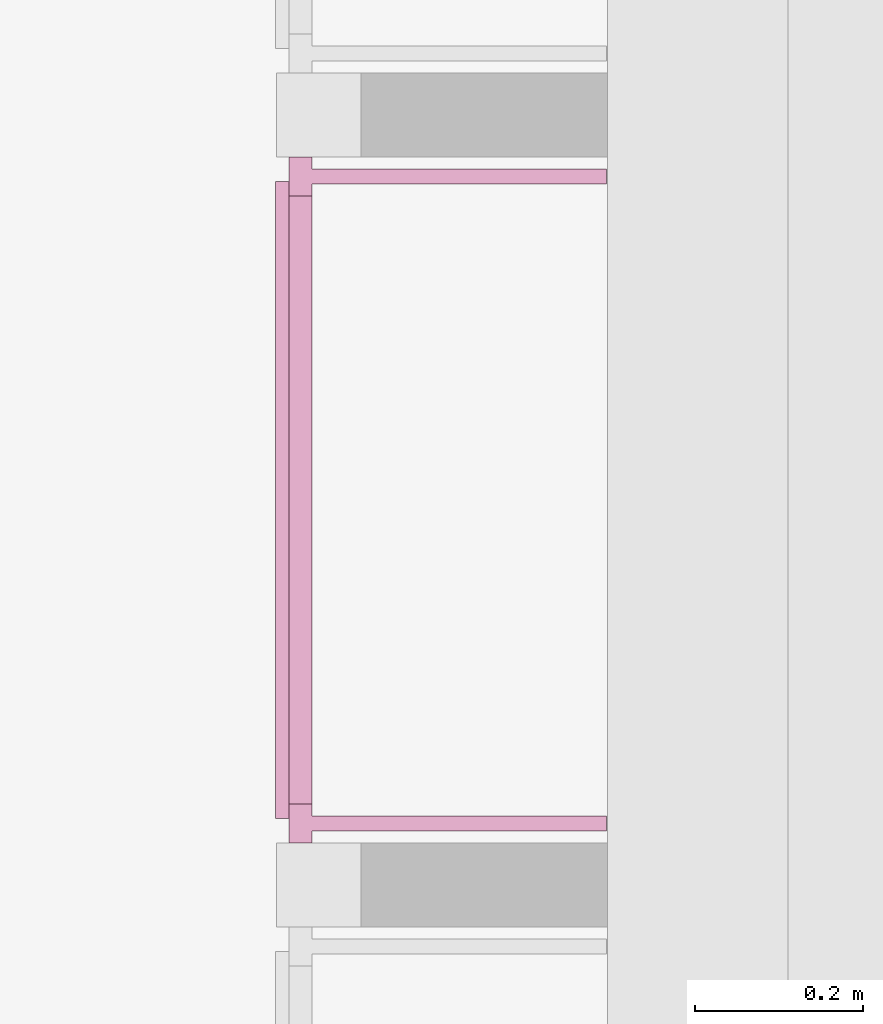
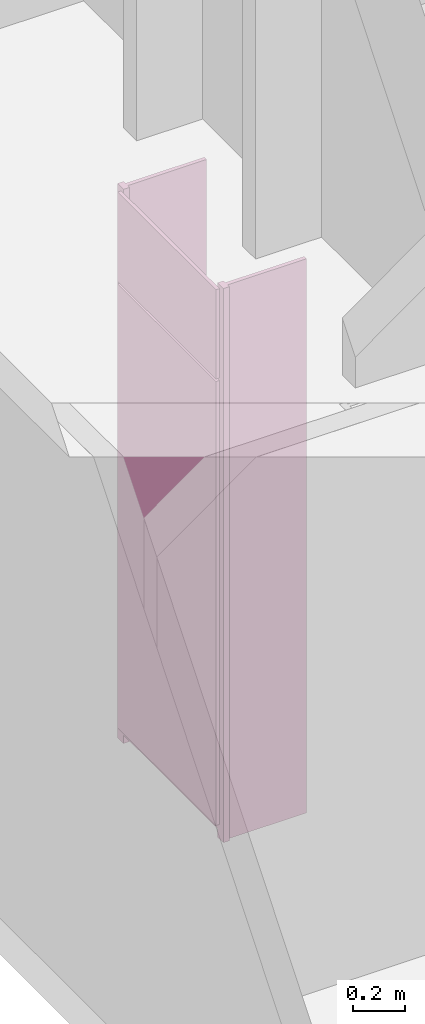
# One storey, part 100 of 117: 1 furnishing.
"""IFC2X3 building model written with IfcOpenShell, lengths in millimetres."""

from ifc_helpers import new_model, entity, si_unit, converted_unit, derived_unit, money_unit, direction, frame, origin_with_axes, place, context, subcontext, project, spatial, faceted_brep, material, type_object, element, save


model = new_model("IFC2X3")

# Units and contexts
model_context = context("Model", 3, precision=0.01, world=origin_with_axes(), true_north=direction((0.0, 1.0)))
body_context = subcontext(model_context, "Body", "Model", "MODEL_VIEW")
ifc_project = project(units=[si_unit("LENGTHUNIT", "METRE", prefix="MILLI"), si_unit("AREAUNIT", "SQUARE_METRE"), si_unit("VOLUMEUNIT", "CUBIC_METRE"), converted_unit("PLANEANGLEUNIT", "DEGREE", entity("IfcPlaneAngleMeasure", 0.0174532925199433), si_unit("PLANEANGLEUNIT", "RADIAN"), dimensions=[0, 0, 0, 0, 0, 0, 0]), money_unit("EUR"), converted_unit("TIMEUNIT", "Year", entity("IfcTimeMeasure", 31557600.0), si_unit("TIMEUNIT", "SECOND"), dimensions=[0, 0, 1, 0, 0, 0, 0]), si_unit("MASSUNIT", "GRAM", prefix="KILO"), si_unit("THERMODYNAMICTEMPERATUREUNIT", "DEGREE_CELSIUS"), si_unit("LUMINOUSINTENSITYUNIT", "LUMEN"), si_unit("ENERGYUNIT", "JOULE", prefix="MEGA"), derived_unit("THERMALCONDUCTANCEUNIT", [(si_unit("POWERUNIT", "WATT"), 1), (si_unit("LENGTHUNIT", "METRE"), -1), (si_unit("THERMODYNAMICTEMPERATUREUNIT", "KELVIN"), -1)]), derived_unit("SPECIFICHEATCAPACITYUNIT", [(si_unit("ENERGYUNIT", "JOULE"), 1), (si_unit("MASSUNIT", "GRAM", prefix="KILO"), -1), (si_unit("THERMODYNAMICTEMPERATUREUNIT", "KELVIN"), -1)]), derived_unit("MASSDENSITYUNIT", [(si_unit("MASSUNIT", "GRAM", prefix="KILO"), 1), (si_unit("VOLUMEUNIT", "CUBIC_METRE"), -1)])], contexts=[model_context])

# Site, building, storey
site_placement = place(None, origin_with_axes())
site = spatial("IfcSite", under=ifc_project, at=site_placement, Name="Site", CompositionType="ELEMENT")
building_placement = place(site_placement, origin_with_axes())
building = spatial("IfcBuilding", under=site, at=building_placement, Name="Naam gebouw", CompositionType="ELEMENT")
storey_placement = place(building_placement, frame((0.0, 0.0, 4150.0), z_axis=(0.0, 0.0, 1.0), x_axis=(1.0, 0.0, 0.0)))
storey = spatial("IfcBuildingStorey", under=building, at=storey_placement, Name="1e verdieping N", CompositionType="ELEMENT", Elevation=4150.0)

# Furnishing
ifc_material = material(Name="houtfineer")
furniture_type = type_object("IfcFurnitureType", Name="NLRS_60_CASE_werkkast_algemeen_WID:meterkast_gen_lxbxh 814x350x2600", AssemblyPlace="NOTDEFINED")
furnishing_placement = place(storey_placement, frame((31684.00000003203, 35594.61275278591, -3770.00000000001), z_axis=(0.0, 0.0, 1.0), x_axis=(0.0, -1.0, 0.0)))
element("IfcFurnishingElement", 1, at=furnishing_placement, inside=storey, type_object=furniture_type, material=ifc_material, Name="NLRS_60_CASE_werkkast_algemeen_WID:meterkast_gen_lxbxh 814x350x2600", context=body_context, shape_type="Brep", body=[
    faceted_brep([(-391.2961033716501, 0.0, 0.0), (-391.2961033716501, -359.0000000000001, 0.0), (-391.2961033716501, -359.0000000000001, 2600.0), (-391.2961033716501, 0.0, 2600.0), (-373.29967356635, 0.0, 0.0), (-373.29967356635, -359.0000000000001, 0.0), (-373.29967356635, -359.0000000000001, 2600.0), (-373.29967356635, 0.0, 2600.0)], [[[0, 1, 2, 3]], [[0, 4, 5, 1]], [[1, 5, 6, 2]], [[3, 2, 6, 7]], [[4, 0, 3, 7]], [[5, 4, 7, 6]]]),
    faceted_brep([(-376.2996735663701, -393.0000000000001, 2164.0), (379.70032643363, -393.0000000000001, 2164.0), (379.70032643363, -393.0000000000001, 2583.0), (-376.2996735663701, -393.0000000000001, 2583.0), (-376.2996735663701, -377.0000000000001, 2164.0), (379.70032643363, -377.0000000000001, 2164.0), (379.70032643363, -377.0000000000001, 2583.0), (-376.2996735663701, -377.0000000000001, 2583.0)], [[[0, 1, 2, 3]], [[0, 4, 5, 1]], [[1, 5, 6, 2]], [[3, 2, 6, 7]], [[4, 0, 3, 7]], [[5, 4, 7, 6]]]),
    faceted_brep([(376.70211153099, -359.0000000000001, 0.0), (394.6985413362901, -359.0000000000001, 0.0), (394.6985413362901, -359.0000000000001, 2600.0), (376.70211153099, -359.0000000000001, 2600.0), (376.70211153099, 0.0, 0.0), (394.6985413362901, 0.0, 0.0), (394.6985413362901, 0.0, 2600.0), (376.70211153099, 0.0, 2600.0)], [[[0, 1, 2, 3]], [[0, 4, 5, 1]], [[1, 5, 6, 2]], [[3, 2, 6, 7]], [[4, 0, 3, 7]], [[5, 4, 7, 6]]]),
    faceted_brep([(408.70032643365, -377.0000000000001, 0.0), (408.70032643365, -350.0000000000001, 0.0), (408.70032643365, -350.0000000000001, 2600.0), (408.70032643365, -377.0000000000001, 2600.0), (362.70032643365, -377.0000000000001, 0.0), (362.70032643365, -350.0000000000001, 0.0), (376.702111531, -350.0000000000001, 0.0), (376.702111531, -359.0000000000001, 0.0), (394.6985413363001, -359.0000000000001, 0.0), (394.6985413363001, -350.0000000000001, 0.0), (394.6985413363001, -350.0000000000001, 2600.0), (394.6985413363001, -359.0000000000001, 2600.0), (376.702111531, -359.0000000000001, 2600.0), (376.702111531, -350.0000000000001, 2600.0), (362.70032643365, -350.0000000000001, 2600.0), (362.70032643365, -377.0000000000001, 2600.0)], [[[0, 1, 2, 3]], [[0, 4, 5, 6, 7, 8, 9, 1]], [[1, 9, 10, 2]], [[3, 2, 10, 11, 12, 13, 14, 15]], [[4, 0, 3, 15]], [[5, 4, 15, 14]], [[6, 5, 14, 13]], [[7, 6, 13, 12]], [[8, 7, 12, 11]], [[9, 8, 11, 10]]]),
    faceted_brep([(-359.29967356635, -377.0000000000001, 0.0), (-359.29967356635, -350.0000000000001, 0.0), (-359.29967356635, -350.0000000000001, 2600.0), (-359.29967356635, -377.0000000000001, 2600.0), (-405.2996735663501, -377.0000000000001, 0.0), (-405.2996735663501, -350.0000000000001, 0.0), (-391.297888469, -350.0000000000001, 0.0), (-391.297888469, -359.0000000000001, 0.0), (-373.3014586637, -359.0000000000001, 0.0), (-373.3014586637, -350.0000000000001, 0.0), (-373.3014586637, -350.0000000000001, 2600.0), (-373.3014586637, -359.0000000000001, 2600.0), (-391.297888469, -359.0000000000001, 2600.0), (-391.297888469, -350.0000000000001, 2600.0), (-405.2996735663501, -350.0000000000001, 2600.0), (-405.2996735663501, -377.0000000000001, 2600.0)], [[[0, 1, 2, 3]], [[0, 4, 5, 6, 7, 8, 9, 1]], [[1, 9, 10, 2]], [[3, 2, 10, 11, 12, 13, 14, 15]], [[4, 0, 3, 15]], [[5, 4, 15, 14]], [[6, 5, 14, 13]], [[7, 6, 13, 12]], [[8, 7, 12, 11]], [[9, 8, 11, 10]]]),
    faceted_brep([(-376.2996735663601, -393.0000000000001, 69.0), (379.70032643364, -393.0000000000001, 69.0), (379.70032643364, -393.0000000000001, 2152.0), (-376.2996735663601, -393.0000000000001, 2152.0), (-376.2996735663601, -377.0000000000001, 69.0), (379.70032643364, -377.0000000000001, 69.0), (379.70032643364, -377.0000000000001, 2152.0), (-376.2996735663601, -377.0000000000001, 2152.0)], [[[0, 1, 2, 3]], [[0, 4, 5, 1]], [[1, 5, 6, 2]], [[3, 2, 6, 7]], [[4, 0, 3, 7]], [[5, 4, 7, 6]]]),
    faceted_brep([(-359.29967356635, -377.0000000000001, 2135.0), (-359.29967356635, -350.0000000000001, 2135.0), (362.7003264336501, -350.0000000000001, 2135.0), (362.7003264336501, -377.0000000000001, 2135.0), (-359.29967356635, -377.0000000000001, 2181.0), (-359.29967356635, -350.0000000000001, 2181.0), (-359.29967356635, -350.0000000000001, 2166.99821490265), (-359.29967356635, -359.0000000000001, 2166.99821490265), (-359.29967356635, -359.0000000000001, 2149.00178509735), (-359.29967356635, -350.0000000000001, 2149.00178509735), (362.7003264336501, -350.0000000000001, 2149.00178509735), (362.7003264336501, -359.0000000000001, 2149.00178509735), (362.7003264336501, -359.0000000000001, 2166.99821490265), (362.7003264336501, -350.0000000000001, 2166.99821490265), (362.7003264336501, -350.0000000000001, 2181.0), (362.7003264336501, -377.0000000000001, 2181.0)], [[[0, 1, 2, 3]], [[0, 4, 5, 6, 7, 8, 9, 1]], [[1, 9, 10, 2]], [[3, 2, 10, 11, 12, 13, 14, 15]], [[4, 0, 3, 15]], [[5, 4, 15, 14]], [[6, 5, 14, 13]], [[7, 6, 13, 12]], [[8, 7, 12, 11]], [[9, 8, 11, 10]]]),
    faceted_brep([(-359.29967356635, -377.0000000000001, 40.0), (-359.29967356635, -350.0000000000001, 40.0), (362.7003264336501, -350.0000000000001, 40.0), (362.7003264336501, -377.0000000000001, 40.0), (-359.29967356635, -377.0000000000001, 86.0), (-359.29967356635, -350.0000000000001, 86.0), (-359.29967356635, -350.0000000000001, 71.99821490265), (-359.29967356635, -359.0000000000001, 71.99821490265), (-359.29967356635, -359.0000000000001, 54.00178509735), (-359.29967356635, -350.0000000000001, 54.00178509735), (362.7003264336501, -350.0000000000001, 54.00178509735), (362.7003264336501, -359.0000000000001, 54.00178509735), (362.7003264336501, -359.0000000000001, 71.99821490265), (362.7003264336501, -350.0000000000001, 71.99821490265), (362.7003264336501, -350.0000000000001, 86.0), (362.7003264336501, -377.0000000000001, 86.0)], [[[0, 1, 2, 3]], [[0, 4, 5, 6, 7, 8, 9, 1]], [[1, 9, 10, 2]], [[3, 2, 10, 11, 12, 13, 14, 15]], [[4, 0, 3, 15]], [[5, 4, 15, 14]], [[6, 5, 14, 13]], [[7, 6, 13, 12]], [[8, 7, 12, 11]], [[9, 8, 11, 10]]]),
])

save(model, "model.ifc")
